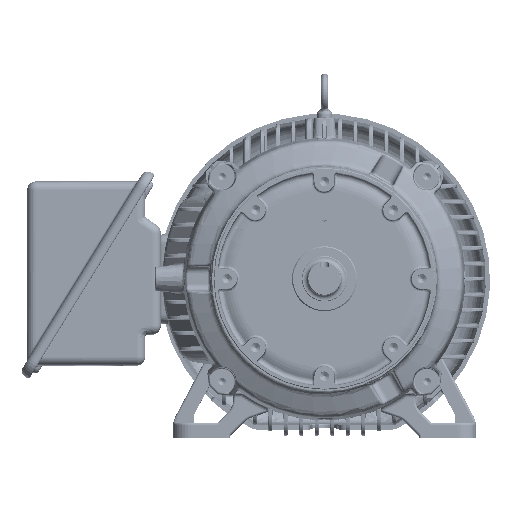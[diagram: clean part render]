
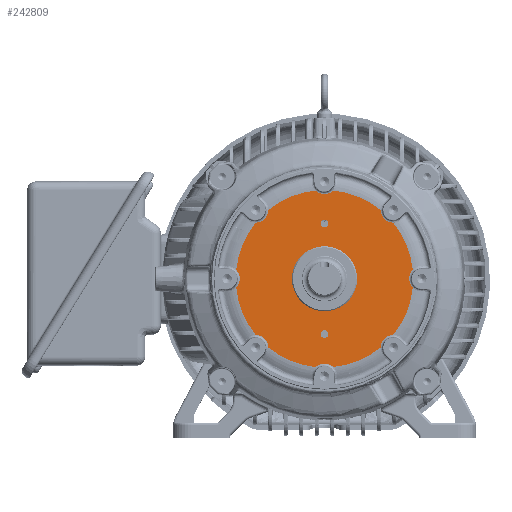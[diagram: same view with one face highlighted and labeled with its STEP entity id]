
A CAD part, top view. The second image highlights one B-rep face of the part: STEP entity #242809.
In plain terms, the highlighted planar face has unit normal (0, 0, 1) as drawn and (0, 0, -1) by its records, which use the part's own axes.
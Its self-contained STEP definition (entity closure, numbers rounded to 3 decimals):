
#223446=CARTESIAN_POINT('',(-3.125,0.,-3.25));
#223447=DIRECTION('',(0.,0.,-1.));
#223448=DIRECTION('',(-1.,0.,0.));
#223449=AXIS2_PLACEMENT_3D('',#223446,#223447,#223448);
#223451=CARTESIAN_POINT('',(-3.125,0.,-3.25));
#223452=DIRECTION('',(0.,0.,-1.));
#223453=DIRECTION('',(1.,0.,0.));
#223454=AXIS2_PLACEMENT_3D('',#223451,#223452,#223453);
#223456=CARTESIAN_POINT('',(3.125,0.,-3.25));
#223457=DIRECTION('',(0.,0.,-1.));
#223458=DIRECTION('',(-1.,0.,0.));
#223459=AXIS2_PLACEMENT_3D('',#223456,#223457,#223458);
#223461=CARTESIAN_POINT('',(3.125,0.,-3.25));
#223462=DIRECTION('',(0.,0.,-1.));
#223463=DIRECTION('',(1.,0.,0.));
#223464=AXIS2_PLACEMENT_3D('',#223461,#223462,#223463);
#223476=CARTESIAN_POINT('',(3.889,3.889,
-3.25));
#223477=DIRECTION('',(0.,0.,1.));
#223478=DIRECTION('',(-1.,-0.014,0.));
#223479=AXIS2_PLACEMENT_3D('',#223476,#223477,#223478);
#227246=CARTESIAN_POINT('',(3.879,3.173,
-3.25));
#227254=CARTESIAN_POINT('',(0.,0.,-3.25));
#227255=DIRECTION('',(0.,0.,-1.));
#227256=DIRECTION('',(-0.1,-0.995,0.));
#227257=AXIS2_PLACEMENT_3D('',#227254,#227255,#227256);
#227264=CARTESIAN_POINT('',(0.,0.,-3.25));
#227265=DIRECTION('',(0.,0.,-1.));
#227266=DIRECTION('',(0.995,-0.1,0.));
#227267=AXIS2_PLACEMENT_3D('',#227264,#227265,#227266);
#227274=CARTESIAN_POINT('',(0.,0.,-3.25));
#227275=DIRECTION('',(0.,0.,-1.));
#227276=DIRECTION('',(0.633,-0.774,0.));
#227277=AXIS2_PLACEMENT_3D('',#227274,#227275,#227276);
#227284=CARTESIAN_POINT('',(0.,0.,-3.25));
#227285=DIRECTION('',(0.,0.,-1.));
#227286=DIRECTION('',(0.774,0.633,0.));
#227287=AXIS2_PLACEMENT_3D('',#227284,#227285,#227286);
#227299=CARTESIAN_POINT('',(0.,0.,-3.25));
#227300=DIRECTION('',(0.,0.,-1.));
#227301=DIRECTION('',(0.1,0.995,0.));
#227302=AXIS2_PLACEMENT_3D('',#227299,#227300,#227301);
#227304=CARTESIAN_POINT('',(0.,0.,-3.25));
#227305=DIRECTION('',(0.,0.,-1.));
#227306=DIRECTION('',(-0.774,-0.633,0.));
#227307=AXIS2_PLACEMENT_3D('',#227304,#227305,#227306);
#227314=CARTESIAN_POINT('',(0.,0.,-3.25));
#227315=DIRECTION('',(0.,0.,-1.));
#227316=DIRECTION('',(-0.995,0.1,0.));
#227317=AXIS2_PLACEMENT_3D('',#227314,#227315,#227316);
#227324=CARTESIAN_POINT('',(0.,0.,-3.25));
#227325=DIRECTION('',(0.,0.,-1.));
#227326=DIRECTION('',(-0.633,0.774,0.));
#227327=AXIS2_PLACEMENT_3D('',#227324,#227325,#227326);
#227347=CARTESIAN_POINT('',(-0.499,-4.986,
-3.25));
#227658=CARTESIAN_POINT('',(5.5,0.,-3.25));
#227659=DIRECTION('',(0.,0.,1.));
#227660=DIRECTION('',(-0.717,0.697,0.));
#227661=AXIS2_PLACEMENT_3D('',#227658,#227659,#227660);
#227676=CARTESIAN_POINT('',(4.986,-0.499,
-3.25));
#228060=CARTESIAN_POINT('',(0.,5.5,-3.25));
#228061=DIRECTION('',(0.,0.,1.));
#228062=DIRECTION('',(-0.697,-0.717,0.));
#228063=AXIS2_PLACEMENT_3D('',#228060,#228061,#228062);
#228374=CARTESIAN_POINT('',(-3.889,-3.889,
-3.25));
#228375=DIRECTION('',(0.,0.,1.));
#228376=DIRECTION('',(1.,0.014,0.));
#228377=AXIS2_PLACEMENT_3D('',#228374,#228375,#228376);
#228392=CARTESIAN_POINT('',(-3.879,-3.173,
-3.25));
#228591=CARTESIAN_POINT('',(0.,-5.5,-3.25));
#228592=DIRECTION('',(0.,0.,1.));
#228593=DIRECTION('',(0.697,0.717,0.));
#228594=AXIS2_PLACEMENT_3D('',#228591,#228592,#228593);
#228760=CARTESIAN_POINT('',(3.889,-3.889,
-3.25));
#228761=DIRECTION('',(0.,0.,1.));
#228762=DIRECTION('',(-0.014,1.,0.));
#228763=AXIS2_PLACEMENT_3D('',#228760,#228761,#228762);
#228779=CARTESIAN_POINT('',(3.173,-3.879,
-3.25));
#228981=CARTESIAN_POINT('',(-5.5,0.,-3.25));
#228982=DIRECTION('',(0.,0.,1.));
#228983=DIRECTION('',(0.717,-0.697,0.));
#228984=AXIS2_PLACEMENT_3D('',#228981,#228982,#228983);
#228999=CARTESIAN_POINT('',(-4.986,0.499,
-3.25));
#229239=CARTESIAN_POINT('',(-3.889,3.889,
-3.25));
#229240=DIRECTION('',(0.,0.,1.));
#229241=DIRECTION('',(0.014,-1.,0.));
#229242=AXIS2_PLACEMENT_3D('',#229239,#229240,#229241);
#229257=CARTESIAN_POINT('',(-3.173,3.879,
-3.25));
#231971=CARTESIAN_POINT('',(0.,0.,-3.25));
#231972=DIRECTION('',(0.,0.,1.));
#231973=DIRECTION('',(0.,1.,0.));
#231974=AXIS2_PLACEMENT_3D('',#231971,#231972,#231973);
#231981=CARTESIAN_POINT('',(0.,0.,-3.25));
#231982=DIRECTION('',(0.,0.,1.));
#231983=DIRECTION('',(0.,-1.,0.));
#231984=AXIS2_PLACEMENT_3D('',#231981,#231982,#231983);
#241225=VERTEX_POINT('',#227347);
#241237=VERTEX_POINT('',#227676);
#241249=VERTEX_POINT('',#228779);
#241871=CARTESIAN_POINT('',(-3.344,0.,-3.25));
#241872=CARTESIAN_POINT('',(-2.906,0.,-3.25));
#241873=VERTEX_POINT('',#241871);
#241874=VERTEX_POINT('',#241872);
#241879=CARTESIAN_POINT('',(2.906,0.,-3.25));
#241880=CARTESIAN_POINT('',(3.344,0.,-3.25));
#241881=VERTEX_POINT('',#241879);
#241882=VERTEX_POINT('',#241880);
#242080=VERTEX_POINT('',#227246);
#242083=CARTESIAN_POINT('',(3.173,3.879,
-3.25));
#242084=VERTEX_POINT('',#242083);
#242088=CARTESIAN_POINT('',(0.499,-4.986,
-3.25));
#242089=VERTEX_POINT('',#242088);
#242093=CARTESIAN_POINT('',(4.986,0.499,
-3.25));
#242094=VERTEX_POINT('',#242093);
#242098=CARTESIAN_POINT('',(3.879,-3.173,
-3.25));
#242099=VERTEX_POINT('',#242098);
#242108=CARTESIAN_POINT('',(-3.173,-3.879,-3.25));
#242109=VERTEX_POINT('',#242108);
#242116=CARTESIAN_POINT('',(0.499,4.986,-3.25));
#242117=VERTEX_POINT('',#242116);
#242310=VERTEX_POINT('',#228392);
#242327=VERTEX_POINT('',#228999);
#242330=CARTESIAN_POINT('',(-4.986,-0.499,-3.25));
#242331=VERTEX_POINT('',#242330);
#242349=VERTEX_POINT('',#229257);
#242352=CARTESIAN_POINT('',(-3.879,3.173,
-3.25));
#242353=VERTEX_POINT('',#242352);
#242370=CARTESIAN_POINT('',(-0.499,4.986,
-3.25));
#242371=VERTEX_POINT('',#242370);
#242732=CARTESIAN_POINT('',(0.,1.809,-3.25));
#242733=CARTESIAN_POINT('',(0.,-1.809,-3.25));
#242734=VERTEX_POINT('',#242732);
#242735=VERTEX_POINT('',#242733);
#242752=CARTESIAN_POINT('',(0.,0.,-3.25));
#242753=DIRECTION('',(0.,0.,-1.));
#242754=DIRECTION('',(0.,-1.,0.));
#242755=AXIS2_PLACEMENT_3D('',#242752,#242753,#242754);
#242756=PLANE('',#242755);
#242758=ORIENTED_EDGE('',*,*,#242757,.F.);
#242760=ORIENTED_EDGE('',*,*,#242759,.F.);
#242762=ORIENTED_EDGE('',*,*,#242761,.F.);
#242764=ORIENTED_EDGE('',*,*,#242763,.F.);
#242766=ORIENTED_EDGE('',*,*,#242765,.F.);
#242768=ORIENTED_EDGE('',*,*,#242767,.F.);
#242770=ORIENTED_EDGE('',*,*,#242769,.F.);
#242772=ORIENTED_EDGE('',*,*,#242771,.F.);
#242774=ORIENTED_EDGE('',*,*,#242773,.F.);
#242776=ORIENTED_EDGE('',*,*,#242775,.F.);
#242778=ORIENTED_EDGE('',*,*,#242777,.F.);
#242780=ORIENTED_EDGE('',*,*,#242779,.F.);
#242782=ORIENTED_EDGE('',*,*,#242781,.F.);
#242784=ORIENTED_EDGE('',*,*,#242783,.F.);
#242786=ORIENTED_EDGE('',*,*,#242785,.F.);
#242788=ORIENTED_EDGE('',*,*,#242787,.F.);
#242789=EDGE_LOOP('',(#242758,#242760,#242762,#242764,#242766,#242768,#242770,
#242772,#242774,#242776,#242778,#242780,#242782,#242784,#242786,#242788));
#242790=FACE_OUTER_BOUND('',#242789,.F.);
#242792=ORIENTED_EDGE('',*,*,#242791,.F.);
#242794=ORIENTED_EDGE('',*,*,#242793,.F.);
#242795=EDGE_LOOP('',(#242792,#242794));
#242796=FACE_BOUND('',#242795,.F.);
#242798=ORIENTED_EDGE('',*,*,#242797,.T.);
#242800=ORIENTED_EDGE('',*,*,#242799,.T.);
#242801=EDGE_LOOP('',(#242798,#242800));
#242802=FACE_BOUND('',#242801,.F.);
#242804=ORIENTED_EDGE('',*,*,#242803,.T.);
#242806=ORIENTED_EDGE('',*,*,#242805,.T.);
#242807=EDGE_LOOP('',(#242804,#242806));
#242808=FACE_BOUND('',#242807,.F.);
#242809=ADVANCED_FACE('',(#242790,#242796,#242802,#242808),#242756,.T.);
#223450=CIRCLE('',#223449,0.219);
#223455=CIRCLE('',#223454,0.219);
#223460=CIRCLE('',#223459,0.219);
#223465=CIRCLE('',#223464,0.219);
#223480=CIRCLE('',#223479,0.716);
#227258=CIRCLE('',#227257,5.011);
#227268=CIRCLE('',#227267,5.011);
#227278=CIRCLE('',#227277,5.011);
#227288=CIRCLE('',#227287,5.011);
#227303=CIRCLE('',#227302,5.011);
#227308=CIRCLE('',#227307,5.011);
#227318=CIRCLE('',#227317,5.011);
#227328=CIRCLE('',#227327,5.011);
#227662=CIRCLE('',#227661,0.716);
#228064=CIRCLE('',#228063,0.716);
#228378=CIRCLE('',#228377,0.716);
#228595=CIRCLE('',#228594,0.716);
#228764=CIRCLE('',#228763,0.716);
#228985=CIRCLE('',#228984,0.716);
#229243=CIRCLE('',#229242,0.716);
#231975=CIRCLE('',#231974,1.809);
#231985=CIRCLE('',#231984,1.809);
#242757=EDGE_CURVE('',#242084,#242080,#223480,.T.);
#242759=EDGE_CURVE('',#242117,#242084,#227303,.T.);
#242761=EDGE_CURVE('',#242371,#242117,#228064,.T.);
#242763=EDGE_CURVE('',#242349,#242371,#227328,.T.);
#242765=EDGE_CURVE('',#242353,#242349,#229243,.T.);
#242767=EDGE_CURVE('',#242327,#242353,#227318,.T.);
#242769=EDGE_CURVE('',#242331,#242327,#228985,.T.);
#242771=EDGE_CURVE('',#242310,#242331,#227308,.T.);
#242773=EDGE_CURVE('',#242109,#242310,#228378,.T.);
#242775=EDGE_CURVE('',#241225,#242109,#227258,.T.);
#242777=EDGE_CURVE('',#242089,#241225,#228595,.T.);
#242779=EDGE_CURVE('',#241249,#242089,#227278,.T.);
#242781=EDGE_CURVE('',#242099,#241249,#228764,.T.);
#242783=EDGE_CURVE('',#241237,#242099,#227268,.T.);
#242785=EDGE_CURVE('',#242094,#241237,#227662,.T.);
#242787=EDGE_CURVE('',#242080,#242094,#227288,.T.);
#242791=EDGE_CURVE('',#242734,#242735,#231975,.T.);
#242793=EDGE_CURVE('',#242735,#242734,#231985,.T.);
#242797=EDGE_CURVE('',#241873,#241874,#223450,.T.);
#242799=EDGE_CURVE('',#241874,#241873,#223455,.T.);
#242803=EDGE_CURVE('',#241881,#241882,#223460,.T.);
#242805=EDGE_CURVE('',#241882,#241881,#223465,.T.);
